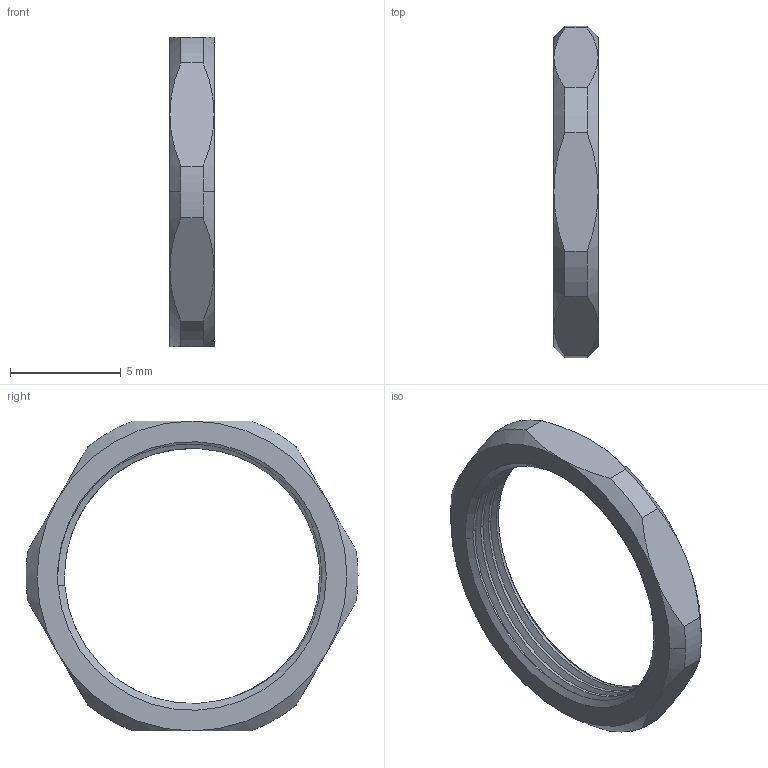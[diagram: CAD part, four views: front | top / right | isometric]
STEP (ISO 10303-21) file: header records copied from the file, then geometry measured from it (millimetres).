
FILE_DESCRIPTION(('Creo Elements/Direct Modeling STEP Export'),'2;1');
FILE_NAME('H20-0016-CL903-00_LN-WS12MBS.stp','2021-10-19T17:52:10',(''),(''),'Creo Elements/Direct Modeling STEP processor for AP214 (Solid Model)','Creo Elements/Direct Modeling 20.3B 05-Dec-2020 (C) Parametric Technology GmbH','');
FILE_SCHEMA(('AUTOMOTIVE_DESIGN { 1 0 10303 214 1 1 1 1 }'));
Length unit declared in the file: millimetre
Products named in the file (1): H20-0016-CL903-00_LN-WS12MBS
Bounding box: 2 x 15 x 14 mm (x, y, z)
Volume: 108.6 mm3; surface area: 308 mm2
Topology: 1 solids, 1 shells, 52 faces, 134 edges, 84 vertices
Faces by surface type: cylinder 24, cone 18, plane 8, bspline 2
Entity records: 2843 total; most frequent: CARTESIAN_POINT 1928, ORIENTED_EDGE 268, EDGE_CURVE 134, DIRECTION 84, VERTEX_POINT 84, EDGE_LOOP 54, FACE_OUTER_BOUND 52, ADVANCED_FACE 52
